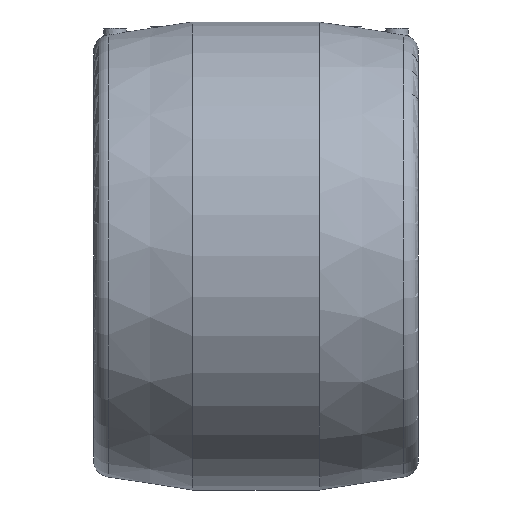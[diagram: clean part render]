
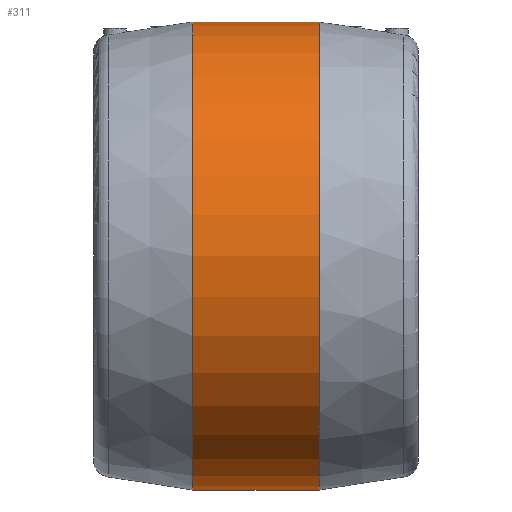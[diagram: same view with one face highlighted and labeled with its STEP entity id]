
A CAD part, front view. The second image highlights one B-rep face of the part: STEP entity #311.
In plain terms, the highlighted cylindrical face has radius 217.5 mm (diameter 435 mm), a full revolution.
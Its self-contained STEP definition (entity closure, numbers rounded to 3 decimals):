
#21=CYLINDRICAL_SURFACE('',#360,217.5);
#68=ORIENTED_EDGE('',*,*,#122,.T.);
#69=ORIENTED_EDGE('',*,*,#123,.T.);
#122=EDGE_CURVE('',#150,#150,#174,.F.);
#123=EDGE_CURVE('',#151,#151,#175,.T.);
#150=VERTEX_POINT('',#595);
#151=VERTEX_POINT('',#597);
#174=CIRCLE('',#361,217.5);
#175=CIRCLE('',#362,217.5);
#206=EDGE_LOOP('',(#68));
#207=EDGE_LOOP('',(#69));
#260=FACE_BOUND('',#206,.T.);
#261=FACE_BOUND('',#207,.T.);
#311=ADVANCED_FACE('',(#260,#261),#21,.T.);
#360=AXIS2_PLACEMENT_3D('',#593,#429,#430);
#361=AXIS2_PLACEMENT_3D('',#594,#431,#432);
#362=AXIS2_PLACEMENT_3D('',#596,#433,#434);
#429=DIRECTION('',(-1.,0.,0.));
#430=DIRECTION('',(0.,0.,1.));
#431=DIRECTION('',(1.,0.,0.));
#432=DIRECTION('',(0.,0.,-1.));
#433=DIRECTION('',(1.,0.,0.));
#434=DIRECTION('',(0.,0.,-1.));
#593=CARTESIAN_POINT('',(-60.,0.,0.));
#594=CARTESIAN_POINT('',(58.696,0.,0.));
#595=CARTESIAN_POINT('',(58.696,0.,-217.5));
#596=CARTESIAN_POINT('',(-58.696,0.,0.));
#597=CARTESIAN_POINT('',(-58.696,0.,-217.5));
